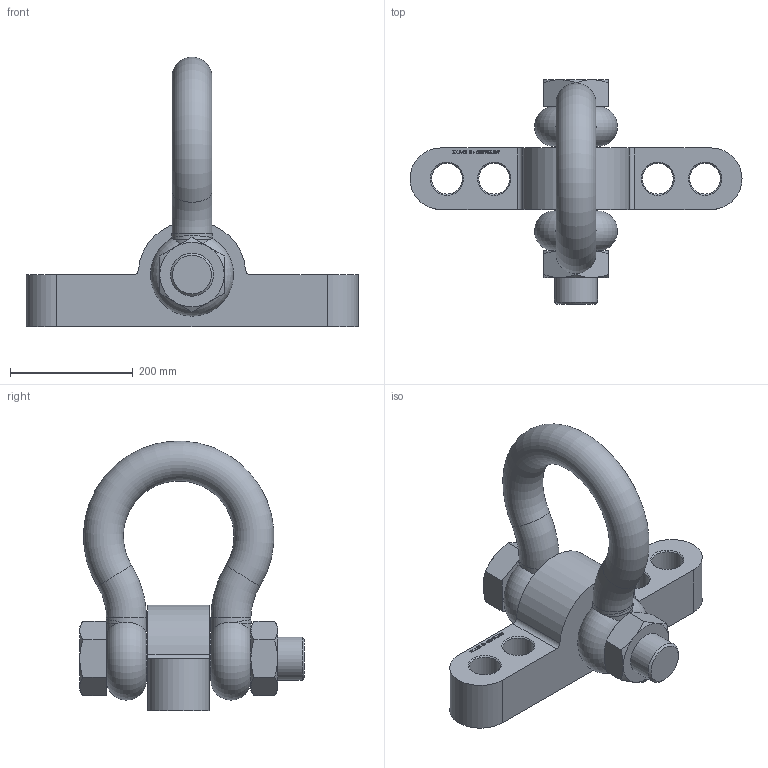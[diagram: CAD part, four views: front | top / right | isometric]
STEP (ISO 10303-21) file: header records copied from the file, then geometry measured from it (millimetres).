
FILE_DESCRIPTION(/* description */ (''),/* implementation_level */ '2;1');
FILE_NAME(/* name */ 'W:\CODIPRO\DOCUMENTS\Plans A NE PAS DIFFUSER !!!\Inventor\Standard Inventor\Produit Fini Inventor\CSS\CSS 55.stp',/* time_stamp */ '2017-10-06T09:23:15+02:00',/* author */ ('rklenes'),/* organization */ (''),/* preprocessor_version */ 'ST-DEVELOPER v16.5',/* originating_system */ 'Autodesk Inventor 2017',/* authorisation */ '');
FILE_SCHEMA (('AUTOMOTIVE_DESIGN { 1 0 10303 214 3 1 1 }'));
Length unit declared in the file: millimetre
Products named in the file (3): CSS 50; CSS_SEM55; manille_gp_g-4163_cmu_55
Assembly tree (2 placements, depth 2):
  CSS 50
    CSS_SEM55
    manille_gp_g-4163_cmu_55
Bounding box: 540 x 365 x 438.78 mm (x, y, z)
Volume: 9705184.3 mm3; surface area: 586189.1 mm2
Topology: 2 solids, 2 shells, 322 faces, 869 edges, 571 vertices
Faces by surface type: plane 169, bspline 93, cone 29, cylinder 24, torus 7
Full cylindrical faces by diameter (mm): 50 x4, 65.13 x2, 70 x2, 70.5 x1
Entity records: 10931 total; most frequent: CARTESIAN_POINT 3521, ORIENTED_EDGE 1672, DIRECTION 1173, EDGE_CURVE 836, VERTEX_POINT 561, LINE 495, VECTOR 495, EDGE_LOOP 377
